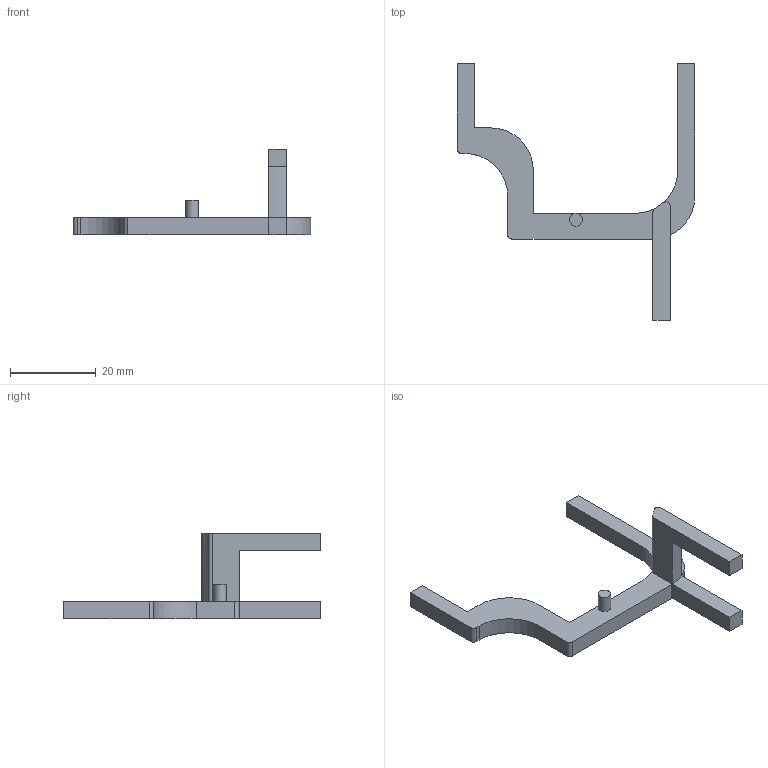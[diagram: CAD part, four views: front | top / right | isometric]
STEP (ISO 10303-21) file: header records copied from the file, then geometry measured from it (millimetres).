
FILE_DESCRIPTION(/* description */ ('STEP AP242','CAx-IF Rec.Pracs.---Representation and Presentation of Product Manufacturing Information (PMI)---4.0---2014-10-13','CAx-IF Rec.Pracs.---3D Tessellated Geometry---0.4---2014-09-14','2;1'),/* implementation_level */ '2;1');
FILE_NAME(/* name */ 'Part Studio 1 - Segment F Follower',/* time_stamp */ '2025-09-04T05:47:29Z',/* author */ (''),/* organization */ (''),/* preprocessor_version */ 'ST-DEVELOPER v20',/* originating_system */ 'ONSHAPE BY PTC INC, 1.203',/* authorisation */ ' ');
FILE_SCHEMA (('AP242_MANAGED_MODEL_BASED_3D_ENGINEERING_MIM_LF { 1 0 10303 442 1 1 4 }'));
Length unit declared in the file: metre
Products named in the file (1): Segment F Follower
Bounding box: 55.6 x 60 x 19.94 mm (x, y, z)
Volume: 3747.1 mm3; surface area: 3307.2 mm2
Topology: 1 solids, 1 shells, 36 faces, 95 edges, 61 vertices
Faces by surface type: plane 25, cylinder 11
Full cylindrical faces by diameter (mm): 3 x1
Entity records: 1115 total; most frequent: DIRECTION 191, CARTESIAN_POINT 190, ORIENTED_EDGE 186, EDGE_CURVE 93, LINE 69, VECTOR 69, AXIS2_PLACEMENT_3D 61, VERTEX_POINT 60
